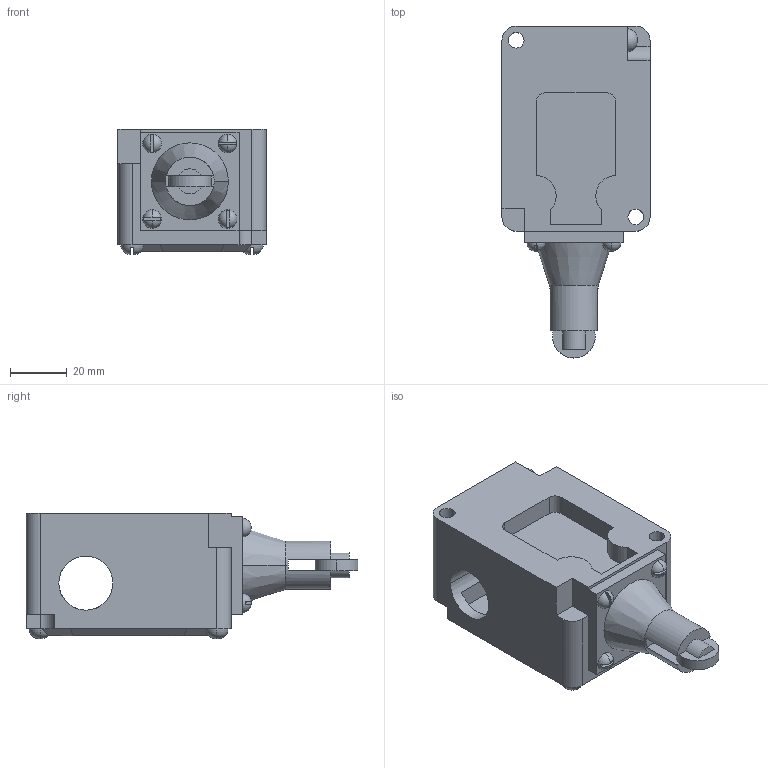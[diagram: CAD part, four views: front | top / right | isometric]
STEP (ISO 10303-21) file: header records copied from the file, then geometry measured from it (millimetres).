
FILE_DESCRIPTION (( 'STEP AP203' ), '1' );
FILE_NAME ('ﾂﾏﾊ 2111.STEP', '2016-02-25T13:31:49', ( '' ), ( '' ), 'SwSTEP 2.0', 'SolidWorks 2012', '' );
FILE_SCHEMA (( 'CONFIG_CONTROL_DESIGN' ));
Length unit declared in the file: millimetre
Products named in the file (1): ﾂﾏﾊ 2111
Bounding box: 52 x 116.5 x 44 mm (x, y, z)
Volume: 92405.7 mm3; surface area: 31797.2 mm2
Topology: 1 solids, 1 shells, 120 faces, 324 edges, 213 vertices
Faces by surface type: plane 76, cylinder 28, torus 14, cone 2
Entity records: 4271 total; most frequent: CARTESIAN_POINT 1098, DIRECTION 652, ORIENTED_EDGE 648, EDGE_CURVE 324, AXIS2_PLACEMENT_3D 235, VERTEX_POINT 213, LINE 182, VECTOR 182
